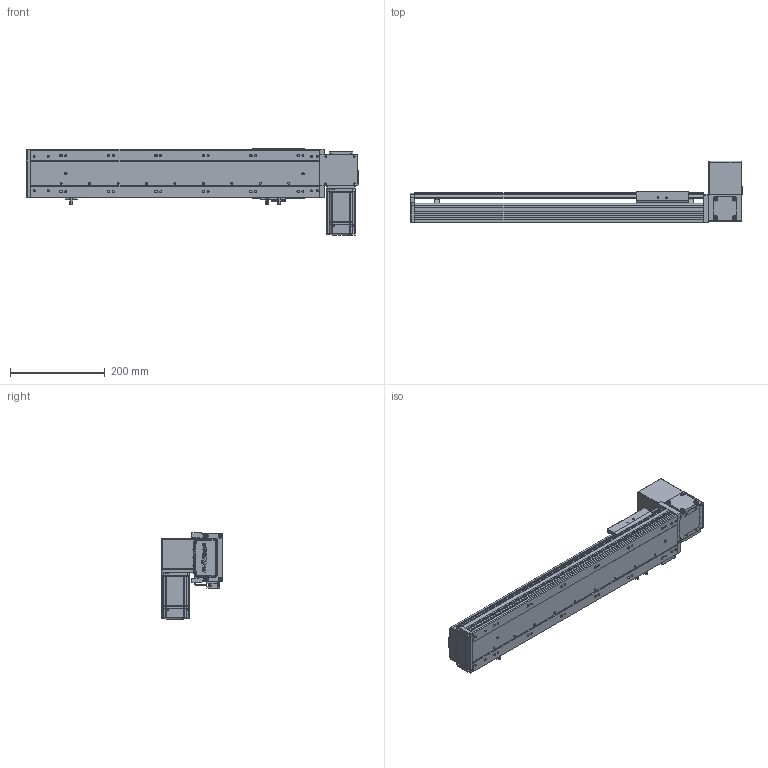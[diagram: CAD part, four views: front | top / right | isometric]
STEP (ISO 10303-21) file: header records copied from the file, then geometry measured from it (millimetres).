
FILE_DESCRIPTION (( 'STEP AP203' ), '1' );
FILE_NAME ('RY100-T-300-UL.SLDASM_400.step', '2024-04-25T08:39:14', ( '盈信电脑' ), ( '东莞市道滘镇水果街19号' ), 'SwSTEP 2.0', 'SolidWorks 2016', '' );
FILE_SCHEMA (( 'CONFIG_CONTROL_DESIGN' ));
Length unit declared in the file: millimetre
Products named in the file (15): RY100-T-300-RK倰第奻裔_400; RY100-T翋肮祭謫裔啣; RY100-T-300-RK倰第菁釱_400; 1; RY100綴裔啣; RY100俋离覜茼え; 滅袉蝶18-10; RY100-T肮祭謫翋盓傅釱; RY80-T肮祭謫奻殏俋欶; RY100-T翋肮祭謫裔啣2; RY100-T肮祭謫臏賑輸; RY100-T左右折电机安装板; RY100-T粣創揤踡裔; RY100-T-300-UL.SLDASM_400; 覜茼ん672
Assembly tree (17 placements, depth 2):
  RY100-T-300-UL.SLDASM_400
    RY100-T-300-RK倰第菁釱_400
    RY100-T-300-RK倰第奻裔_400
    RY100-T肮祭謫臏賑輸
    RY100綴裔啣
    覜茼ん672  x3
    RY100俋离覜茼え
    RY100-T肮祭謫翋盓傅釱
    滅袉蝶18-10  x2
    RY100-T翋肮祭謫裔啣2
    RY100-T翋肮祭謫裔啣
    1
    RY100-T左右折电机安装板
    RY80-T肮祭謫奻殏俋欶
    RY100-T粣創揤踡裔
Bounding box: 700 x 130.5 x 182.5 mm (x, y, z)
Volume: 1668108.1 mm3; surface area: 655578.4 mm2
Topology: 17 solids, 17 shells, 2159 faces, 5984 edges, 3884 vertices
Faces by surface type: plane 1199, cylinder 753, cone 129, bspline 78
Entity records: 69098 total; most frequent: CARTESIAN_POINT 16575, ORIENTED_EDGE 10800, DIRECTION 10278, EDGE_CURVE 5400, VERTEX_POINT 3552, VECTOR 3542, LINE 3542, AXIS2_PLACEMENT_3D 3368
